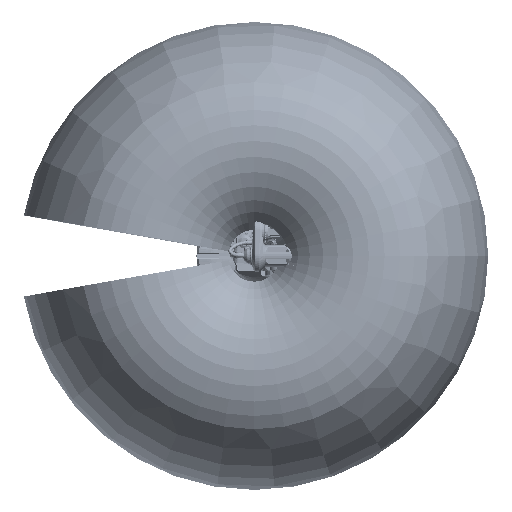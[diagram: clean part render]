
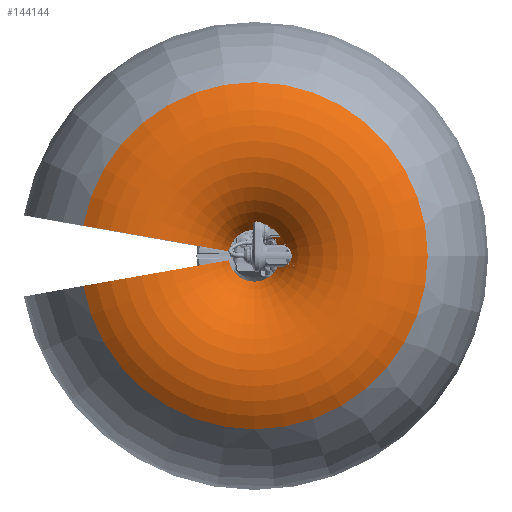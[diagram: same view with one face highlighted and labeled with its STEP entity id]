
A CAD part, top view. The second image highlights one B-rep face of the part: STEP entity #144144.
In plain terms, the highlighted toroidal (fillet/blend) face has major radius 1518.53 mm and minor radius 1295 mm.
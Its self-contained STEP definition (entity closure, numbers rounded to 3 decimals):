
#11113 = EDGE_CURVE ( 'NONE', #334498, #461740, #593305, .T. ) ;
#14124 = DIRECTION ( 'NONE',  ( -1., 0., 0. ) ) ;
#17894 = EDGE_LOOP ( 'NONE', ( #156543, #575240, #341536, #516104 ) ) ;
#41304 = FACE_OUTER_BOUND ( 'NONE', #17894, .T. ) ;
#50945 = CARTESIAN_POINT ( 'NONE',  ( -339.62, 59.884, 2424.67 ) ) ;
#86791 = DIRECTION ( 'NONE',  ( 0., 0., 1. ) ) ;
#106253 = CARTESIAN_POINT ( 'NONE',  ( 0., 0., 2424.67 ) ) ;
#139584 = DIRECTION ( 'NONE',  ( 0., 0., 1. ) ) ;
#144144 = ADVANCED_FACE ( 'NONE', ( #41304 ), #315171, .T. ) ;
#155598 = AXIS2_PLACEMENT_3D ( 'NONE', #618756, #190533, #139584 ) ;
#156543 = ORIENTED_EDGE ( 'NONE', *, *, #443313, .T. ) ;
#161147 = VERTEX_POINT ( 'NONE', #293004 ) ;
#179489 = CIRCLE ( 'NONE', #503582, 1295. ) ;
#190533 = DIRECTION ( 'NONE',  ( 0.174, 0.985, 0. ) ) ;
#246359 = EDGE_CURVE ( 'NONE', #355234, #461740, #179489, .T. ) ;
#283517 = CARTESIAN_POINT ( 'NONE',  ( -1495.459, -263.69, 1877.382 ) ) ;
#290342 = CARTESIAN_POINT ( 'NONE',  ( -339.62, -59.884, 2424.67 ) ) ;
#290527 = DIRECTION ( 'NONE',  ( 0., 0., -1. ) ) ;
#293004 = CARTESIAN_POINT ( 'NONE',  ( -2280.628, 402.136, 2897.856 ) ) ;
#315171 = TOROIDAL_SURFACE ( 'NONE', #578509, 1518.529, 1295. ) ;
#322818 = AXIS2_PLACEMENT_3D ( 'NONE', #448537, #407310, #14124 ) ;
#334498 = VERTEX_POINT ( 'NONE', #50945 ) ;
#339342 = CARTESIAN_POINT ( 'NONE',  ( 0., 0., 1877.382 ) ) ;
#341536 = ORIENTED_EDGE ( 'NONE', *, *, #246359, .F. ) ;
#343114 = CIRCLE ( 'NONE', #322818, 2315.811 ) ;
#355234 = VERTEX_POINT ( 'NONE', #536533 ) ;
#407310 = DIRECTION ( 'NONE',  ( 0., 0., -1. ) ) ;
#431251 = EDGE_CURVE ( 'NONE', #161147, #355234, #343114, .T. ) ;
#443313 = EDGE_CURVE ( 'NONE', #161147, #334498, #580868, .T. ) ;
#448537 = CARTESIAN_POINT ( 'NONE',  ( 0., 0., 2897.856 ) ) ;
#461740 = VERTEX_POINT ( 'NONE', #290342 ) ;
#483814 = DIRECTION ( 'NONE',  ( -1., 0., 0. ) ) ;
#491295 = DIRECTION ( 'NONE',  ( 0., 0., -1. ) ) ;
#492099 = AXIS2_PLACEMENT_3D ( 'NONE', #106253, #290527, #483814 ) ;
#503582 = AXIS2_PLACEMENT_3D ( 'NONE', #283517, #527449, #86791 ) ;
#516104 = ORIENTED_EDGE ( 'NONE', *, *, #431251, .F. ) ;
#527449 = DIRECTION ( 'NONE',  ( -0.174, 0.985, 0. ) ) ;
#536533 = CARTESIAN_POINT ( 'NONE',  ( -2280.628, -402.136, 2897.856 ) ) ;
#545085 = DIRECTION ( 'NONE',  ( -1., 0., 0. ) ) ;
#575240 = ORIENTED_EDGE ( 'NONE', *, *, #11113, .T. ) ;
#578509 = AXIS2_PLACEMENT_3D ( 'NONE', #339342, #491295, #545085 ) ;
#580868 = CIRCLE ( 'NONE', #155598, 1295. ) ;
#593305 = CIRCLE ( 'NONE', #492099, 344.859 ) ;
#618756 = CARTESIAN_POINT ( 'NONE',  ( -1495.459, 263.69, 1877.382 ) ) ;
